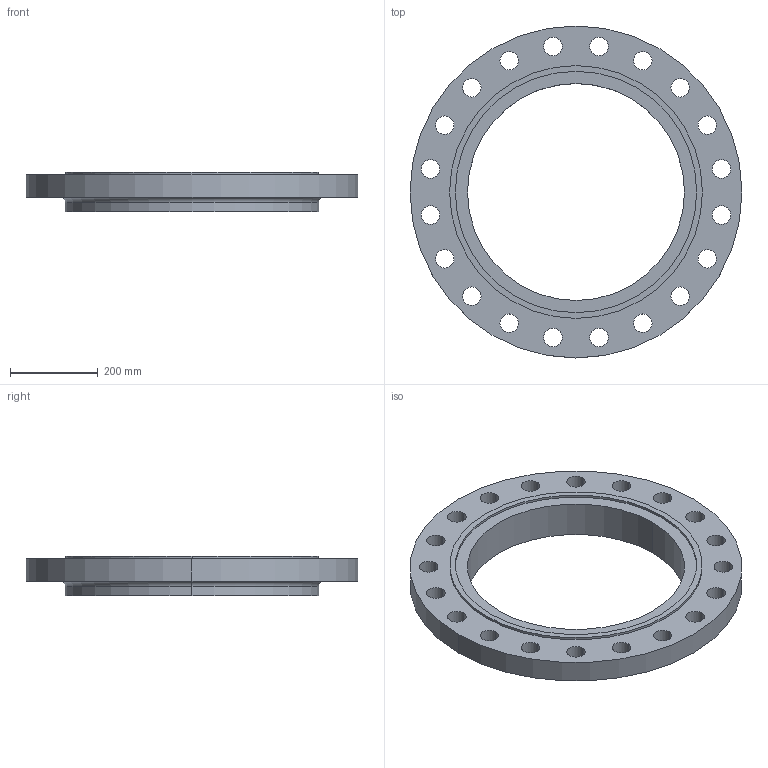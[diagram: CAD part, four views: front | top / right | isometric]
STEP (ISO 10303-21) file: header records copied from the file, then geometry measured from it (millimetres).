
FILE_DESCRIPTION (( 'STEP AP214' ), '1' );
FILE_NAME ('PN40 DN500 Type 13 - Type C Face.STEP', '2018-12-29T01:22:08', ( '' ), ( '' ), 'SwSTEP 2.0', 'SolidWorks 2019', '' );
FILE_SCHEMA (( 'AUTOMOTIVE_DESIGN' ));
Length unit declared in the file: millimetre
Products named in the file (1): PN40 DN500 Type 13 - Type C Face
Bounding box: 755 x 755 x 90 mm (x, y, z)
Volume: 14247776.7 mm3; surface area: 916359.6 mm2
Topology: 1 solids, 1 shells, 57 faces, 154 edges, 102 vertices
Faces by surface type: cylinder 50, plane 5, torus 2
Entity records: 1974 total; most frequent: DIRECTION 374, CARTESIAN_POINT 314, ORIENTED_EDGE 308, AXIS2_PLACEMENT_3D 162, EDGE_CURVE 154, CIRCLE 104, EDGE_LOOP 102, VERTEX_POINT 102
